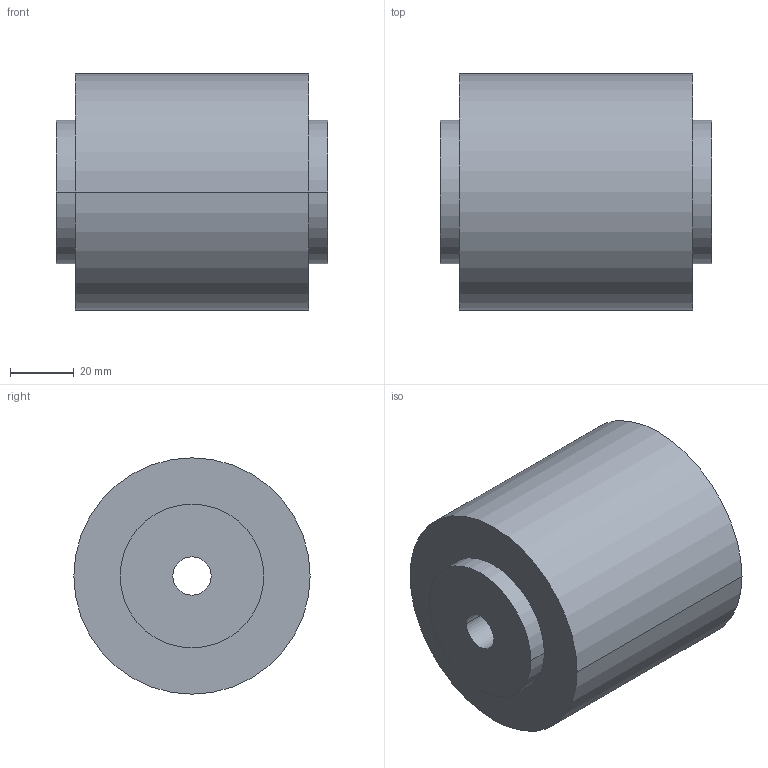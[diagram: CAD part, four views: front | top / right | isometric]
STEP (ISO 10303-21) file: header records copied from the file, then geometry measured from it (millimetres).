
FILE_DESCRIPTION((''),'2;1');
FILE_NAME('A19132600-0_ASM','2018-11-15T',('AB_Roschiwal'),('RENK AG'),'PRO/ENGINEER BY PARAMETRIC TECHNOLOGY CORPORATION, 2015440','PRO/ENGINEER BY PARAMETRIC TECHNOLOGY CORPORATION, 2015440','');
FILE_SCHEMA(('CONFIG_CONTROL_DESIGN'));
Length unit declared in the file: millimetre
Products named in the file (3): HBK30_GEHAEUSE; HBK30_NABE; A19132600-0_ASM
Assembly tree (3 placements, depth 2):
  A19132600-0_ASM
    HBK30_GEHAEUSE
    HBK30_NABE  x2
Bounding box: 85 x 74 x 74 mm (x, y, z)
Volume: 291434.3 mm3; surface area: 70617.2 mm2
Topology: 3 solids, 3 shells, 36 faces, 72 edges, 48 vertices
Faces by surface type: cylinder 24, plane 12
Entity records: 748 total; most frequent: DIRECTION 140, CARTESIAN_POINT 110, ORIENTED_EDGE 96, AXIS2_PLACEMENT_3D 62, EDGE_CURVE 48, VERTEX_POINT 32, EDGE_LOOP 32, CIRCLE 32
